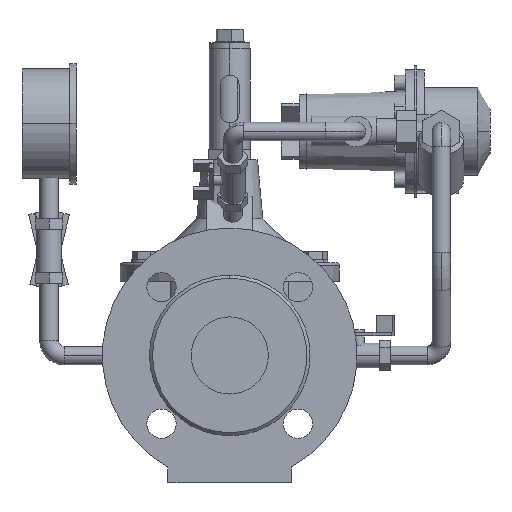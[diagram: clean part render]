
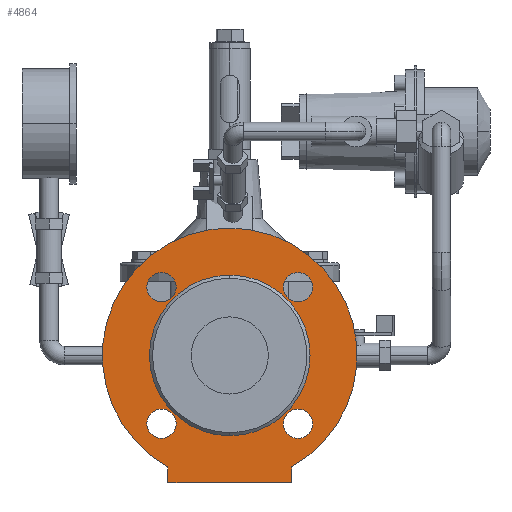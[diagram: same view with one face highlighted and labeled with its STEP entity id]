
A CAD part, left-side view. The second image highlights one B-rep face of the part: STEP entity #4864.
In plain terms, the highlighted planar face has unit normal (-1, 0, 0).
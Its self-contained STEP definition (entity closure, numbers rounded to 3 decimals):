
#4864=ADVANCED_FACE('',(#9093,#9094,#9095,#9096,#9097,#9098),#9099,.F.);
#9093=FACE_BOUND('',#14002,.T.);
#9094=FACE_BOUND('',#14003,.T.);
#9095=FACE_BOUND('',#14004,.T.);
#9096=FACE_BOUND('',#14005,.T.);
#9097=FACE_BOUND('',#14006,.T.);
#9098=FACE_OUTER_BOUND('',#14007,.T.);
#9099=PLANE('',#14008);
#14002=EDGE_LOOP('',(#22213,#22214));
#14003=EDGE_LOOP('',(#22215,#22216));
#14004=EDGE_LOOP('',(#22217,#22218));
#14005=EDGE_LOOP('',(#22219,#22220));
#14006=EDGE_LOOP('',(#22221,#22222));
#14007=EDGE_LOOP('',(#22223,#22224,#22225,#22226,#22227));
#14008=AXIS2_PLACEMENT_3D('',#22228,#22229,#22230);
#22213=ORIENTED_EDGE('',*,*,#29110,.T.);
#22214=ORIENTED_EDGE('',*,*,#26445,.T.);
#22215=ORIENTED_EDGE('',*,*,#29111,.T.);
#22216=ORIENTED_EDGE('',*,*,#27932,.T.);
#22217=ORIENTED_EDGE('',*,*,#29112,.T.);
#22218=ORIENTED_EDGE('',*,*,#28169,.T.);
#22219=ORIENTED_EDGE('',*,*,#26410,.T.);
#22220=ORIENTED_EDGE('',*,*,#27166,.T.);
#22221=ORIENTED_EDGE('',*,*,#29113,.T.);
#22222=ORIENTED_EDGE('',*,*,#25917,.T.);
#22223=ORIENTED_EDGE('',*,*,#29114,.F.);
#22224=ORIENTED_EDGE('',*,*,#28947,.F.);
#22225=ORIENTED_EDGE('',*,*,#27173,.F.);
#22226=ORIENTED_EDGE('',*,*,#28173,.F.);
#22227=ORIENTED_EDGE('',*,*,#28613,.F.);
#22228=CARTESIAN_POINT('',(2.0,0.0,0.));
#22229=DIRECTION('',(1.0,0.0,0.));
#22230=DIRECTION('',(0.,0.0,-1.0));
#25917=EDGE_CURVE('',#30057,#30055,#30058,.T.);
#26410=EDGE_CURVE('',#30903,#30907,#30909,.T.);
#26445=EDGE_CURVE('',#30968,#30966,#30969,.T.);
#27166=EDGE_CURVE('',#30907,#30903,#32147,.T.);
#27173=EDGE_CURVE('',#32158,#32159,#32160,.T.);
#27932=EDGE_CURVE('',#33298,#33296,#33299,.T.);
#28169=EDGE_CURVE('',#33643,#33641,#33644,.T.);
#28173=EDGE_CURVE('',#33647,#32158,#33649,.T.);
#28613=EDGE_CURVE('',#34264,#33647,#34266,.T.);
#28947=EDGE_CURVE('',#32159,#34700,#34702,.T.);
#29110=EDGE_CURVE('',#30966,#30968,#34901,.T.);
#29111=EDGE_CURVE('',#33296,#33298,#34902,.T.);
#29112=EDGE_CURVE('',#33641,#33643,#34903,.T.);
#29113=EDGE_CURVE('',#30055,#30057,#34904,.T.);
#29114=EDGE_CURVE('',#34700,#34264,#34905,.T.);
#30055=VERTEX_POINT('',#35959);
#30057=VERTEX_POINT('',#35962);
#30058=CIRCLE('',#35963,9.5);
#30903=VERTEX_POINT('',#37394);
#30907=VERTEX_POINT('',#37399);
#30909=CIRCLE('',#37402,9.5);
#30966=VERTEX_POINT('',#37481);
#30968=VERTEX_POINT('',#37484);
#30969=CIRCLE('',#37485,25.0);
#32147=CIRCLE('',#39181,9.5);
#32158=VERTEX_POINT('',#39194);
#32159=VERTEX_POINT('',#39195);
#32160=LINE('',#39196,#39197);
#33296=VERTEX_POINT('',#40773);
#33298=VERTEX_POINT('',#40776);
#33299=CIRCLE('',#40777,9.5);
#33641=VERTEX_POINT('',#41241);
#33643=VERTEX_POINT('',#41244);
#33644=CIRCLE('',#41245,9.5);
#33647=VERTEX_POINT('',#41249);
#33649=LINE('',#41252,#41253);
#34264=VERTEX_POINT('',#42584);
#34266=CIRCLE('',#42587,82.5);
#34700=VERTEX_POINT('',#43233);
#34702=LINE('',#43236,#43237);
#34901=CIRCLE('',#43497,25.0);
#34902=CIRCLE('',#43498,9.5);
#34903=CIRCLE('',#43499,9.5);
#34904=CIRCLE('',#43500,9.5);
#34905=CIRCLE('',#43501,82.5);
#35959=CARTESIAN_POINT('',(2.0,-44.194,-53.694));
#35962=CARTESIAN_POINT('',(2.0,-44.194,-34.694));
#35963=AXIS2_PLACEMENT_3D('',#44844,#44845,#44846);
#37394=CARTESIAN_POINT('',(2.0,-44.194,34.694));
#37399=CARTESIAN_POINT('',(2.0,-44.194,53.694));
#37402=AXIS2_PLACEMENT_3D('',#45440,#45441,#45442);
#37481=CARTESIAN_POINT('',(2.0,0.0,-25.0));
#37484=CARTESIAN_POINT('',(2.0,0.,25.0));
#37485=AXIS2_PLACEMENT_3D('',#45472,#45473,#45474);
#39181=AXIS2_PLACEMENT_3D('',#46318,#46319,#46320);
#39194=CARTESIAN_POINT('',(2.0,-40.0,-82.5));
#39195=CARTESIAN_POINT('',(2.0,40.0,-82.5));
#39196=CARTESIAN_POINT('',(2.0,-40.0,-82.5));
#39197=VECTOR('',#46329,1.0);
#40773=CARTESIAN_POINT('',(2.0,44.194,-53.694));
#40776=CARTESIAN_POINT('',(2.0,44.194,-34.694));
#40777=AXIS2_PLACEMENT_3D('',#47202,#47203,#47204);
#41241=CARTESIAN_POINT('',(2.0,44.194,34.694));
#41244=CARTESIAN_POINT('',(2.0,44.194,53.694));
#41245=AXIS2_PLACEMENT_3D('',#47463,#47464,#47465);
#41249=CARTESIAN_POINT('',(2.0,-40.0,-72.154));
#41252=CARTESIAN_POINT('',(2.0,-40.0,-62.5));
#41253=VECTOR('',#47468,1.0);
#42584=CARTESIAN_POINT('',(2.,0.,82.5));
#42587=AXIS2_PLACEMENT_3D('',#47952,#47953,#47954);
#43233=CARTESIAN_POINT('',(2.0,40.0,-72.154));
#43236=CARTESIAN_POINT('',(2.0,40.0,-82.5));
#43237=VECTOR('',#48308,1.0);
#43497=AXIS2_PLACEMENT_3D('',#48460,#48461,#48462);
#43498=AXIS2_PLACEMENT_3D('',#48463,#48464,#48465);
#43499=AXIS2_PLACEMENT_3D('',#48466,#48467,#48468);
#43500=AXIS2_PLACEMENT_3D('',#48469,#48470,#48471);
#43501=AXIS2_PLACEMENT_3D('',#48472,#48473,#48474);
#44844=CARTESIAN_POINT('',(2.0,-44.194,-44.194));
#44845=DIRECTION('',(1.0,0.0,0.));
#44846=DIRECTION('',(0.,0.0,-1.0));
#45440=CARTESIAN_POINT('',(2.0,-44.194,44.194));
#45441=DIRECTION('',(1.0,0.0,0.));
#45442=DIRECTION('',(0.,0.0,-1.0));
#45472=CARTESIAN_POINT('',(2.0,0.0,0.));
#45473=DIRECTION('',(1.0,0.0,0.));
#45474=DIRECTION('',(0.,0.0,-1.0));
#46318=CARTESIAN_POINT('',(2.0,-44.194,44.194));
#46319=DIRECTION('',(1.0,0.0,0.));
#46320=DIRECTION('',(0.,0.0,-1.0));
#46329=DIRECTION('',(0.0,1.0,0.0));
#47202=CARTESIAN_POINT('',(2.0,44.194,-44.194));
#47203=DIRECTION('',(1.0,0.0,0.));
#47204=DIRECTION('',(0.,0.0,-1.0));
#47463=CARTESIAN_POINT('',(2.0,44.194,44.194));
#47464=DIRECTION('',(1.0,0.0,0.));
#47465=DIRECTION('',(0.,0.0,-1.0));
#47468=DIRECTION('',(0.0,0.0,-1.0));
#47952=CARTESIAN_POINT('',(2.0,0.0,0.));
#47953=DIRECTION('',(1.0,0.0,0.));
#47954=DIRECTION('',(0.,0.0,-1.0));
#48308=DIRECTION('',(0.0,0.0,1.0));
#48460=CARTESIAN_POINT('',(2.0,0.0,0.));
#48461=DIRECTION('',(1.0,0.0,0.));
#48462=DIRECTION('',(0.,0.0,-1.0));
#48463=CARTESIAN_POINT('',(2.0,44.194,-44.194));
#48464=DIRECTION('',(1.0,0.0,0.));
#48465=DIRECTION('',(0.,0.0,-1.0));
#48466=CARTESIAN_POINT('',(2.0,44.194,44.194));
#48467=DIRECTION('',(1.0,0.0,0.));
#48468=DIRECTION('',(0.,0.0,-1.0));
#48469=CARTESIAN_POINT('',(2.0,-44.194,-44.194));
#48470=DIRECTION('',(1.0,0.0,0.));
#48471=DIRECTION('',(0.,0.0,-1.0));
#48472=CARTESIAN_POINT('',(2.0,0.0,0.));
#48473=DIRECTION('',(1.0,0.0,0.));
#48474=DIRECTION('',(0.,0.0,-1.0));
